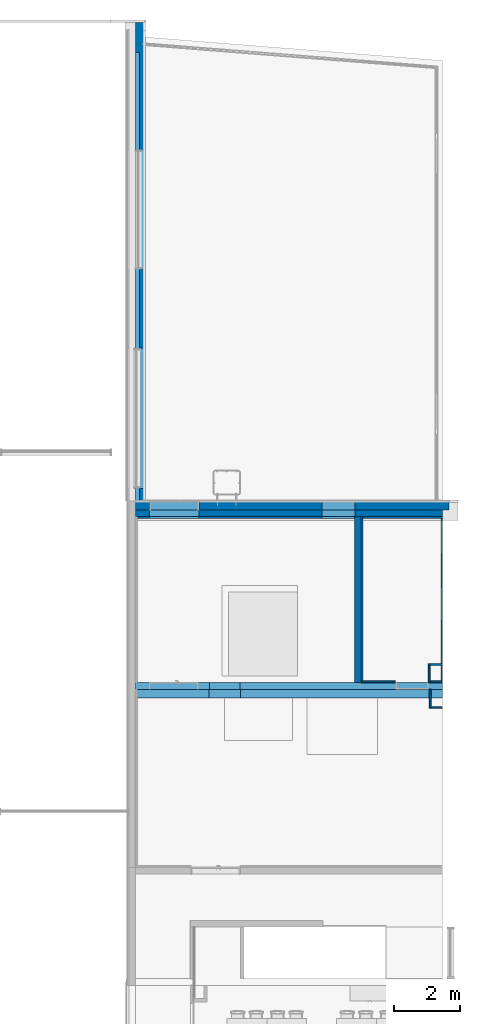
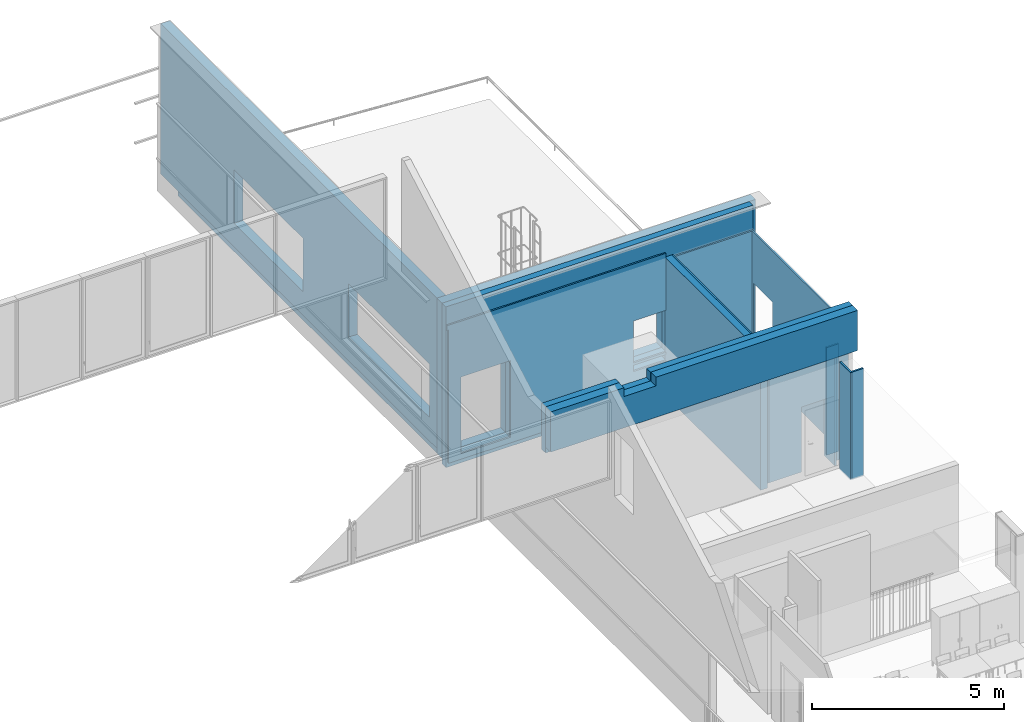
# One storey, part 28 of 44: 16 walls, 25 openings.
"""IFC2X3 building model written with IfcOpenShell, lengths in centimetres."""

from ifc_helpers import new_model, entity, si_unit, converted_unit, derived_unit, direction, frame, frame_2d, origin, origin_2d_with_axis, place, context, subcontext, project, spatial, polyline, rectangle, extrude, clip, bounded_halfspace, material, layer, layer_set, layer_usage, type_object, element, save


model = new_model("IFC2X3")

# Units and contexts
model_context = context("Model", 3, precision=0.001, world=origin(), true_north=direction((6.12303176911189e-17, 1.0)))
body_context = subcontext(model_context, "Body", "Model", "MODEL_VIEW")
ifc_project = project(units=[si_unit("LENGTHUNIT", "METRE", prefix="CENTI"), si_unit("AREAUNIT", "SQUARE_METRE"), si_unit("VOLUMEUNIT", "CUBIC_METRE"), converted_unit("PLANEANGLEUNIT", "DEGREE", entity("IfcRatioMeasure", 0.0174532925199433), si_unit("PLANEANGLEUNIT", "RADIAN"), dimensions=[0, 0, 0, 0, 0, 0, 0]), si_unit("MASSUNIT", "GRAM", prefix="KILO"), si_unit("TIMEUNIT", "SECOND"), si_unit("FREQUENCYUNIT", "HERTZ"), si_unit("THERMODYNAMICTEMPERATUREUNIT", "DEGREE_CELSIUS"), derived_unit("THERMALTRANSMITTANCEUNIT", [(si_unit("MASSUNIT", "GRAM", prefix="KILO"), 1), (si_unit("THERMODYNAMICTEMPERATUREUNIT", "KELVIN"), -1), (si_unit("TIMEUNIT", "SECOND"), -3)]), derived_unit("VOLUMETRICFLOWRATEUNIT", [(si_unit("LENGTHUNIT", "METRE"), 3), (si_unit("TIMEUNIT", "SECOND"), -1)]), si_unit("ELECTRICCURRENTUNIT", "AMPERE"), si_unit("ELECTRICVOLTAGEUNIT", "VOLT"), si_unit("POWERUNIT", "WATT"), si_unit("FORCEUNIT", "NEWTON", prefix="KILO"), si_unit("ILLUMINANCEUNIT", "LUX"), si_unit("LUMINOUSFLUXUNIT", "LUMEN"), si_unit("LUMINOUSINTENSITYUNIT", "CANDELA"), derived_unit("USERDEFINED", [(si_unit("MASSUNIT", "GRAM", prefix="KILO"), -1), (si_unit("LENGTHUNIT", "METRE"), -2), (si_unit("TIMEUNIT", "SECOND"), 3), (si_unit("LUMINOUSFLUXUNIT", "LUMEN"), 1)]), derived_unit("LINEARVELOCITYUNIT", [(si_unit("LENGTHUNIT", "METRE"), 1), (si_unit("TIMEUNIT", "SECOND"), -1)]), si_unit("PRESSUREUNIT", "PASCAL"), derived_unit("USERDEFINED", [(si_unit("LENGTHUNIT", "METRE"), -2), (si_unit("MASSUNIT", "GRAM", prefix="KILO"), 1), (si_unit("TIMEUNIT", "SECOND"), -2)])], contexts=[model_context])

# Site, building, storey
site_placement = place(None, frame((8.62739174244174, -249.285249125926, 0.0)))
site = spatial("IfcSite", under=ifc_project, at=site_placement, Name="Default", CompositionType="ELEMENT")
building_placement = place(site_placement, origin())
building = spatial("IfcBuilding", under=site, at=building_placement, CompositionType="ELEMENT")
storey_placement = place(building_placement, frame((0.0, 0.0, 343.0)))
storey = spatial("IfcBuildingStorey", under=building, at=storey_placement, Name="R+1", CompositionType="ELEMENT", Elevation=343.0)

# Walls
ifc_material_1 = material(Name="Plâtre")
ifc_layer_1 = layer(ifc_material_1, 5.0)
ifc_layer_set_1 = layer_set([ifc_layer_1], Name="Mur de base:PLA 5")
ifc_layer_usage_1 = layer_usage(ifc_layer_set_1, "AXIS2", "POSITIVE", -2.5)
wall_type_1 = type_object("IfcWallType", Name="Mur de base:PLA 5", PredefinedType="STANDARD", material=ifc_layer_set_1)
wall_1_placement = place(storey_placement, frame((3978.90482781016, 5649.4802081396, 0.0), z_axis=(0.0, 0.0, 1.0), x_axis=(-1.0, 0.0, 0.0)))
element("IfcWallStandardCase", 1, at=wall_1_placement, inside=storey, type_object=wall_type_1, material=ifc_layer_usage_1, Name="Mur de base:PLA 5", ObjectType="Mur de base:PLA 5", context=body_context, shape_type="SweptSolid", body=[
    extrude(rectangle(XDim=37.0000000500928, YDim=5.0000000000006, at=frame_2d((18.5000000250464, 1.01030295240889e-13), x_axis=(-1.0, 0.0))), origin(), (0.0, 0.0, 1.0), 343.000000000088),
])
ifc_layer_usage_2 = layer_usage(ifc_layer_set_1, "AXIS2", "POSITIVE", -2.5)
wall_2_placement = place(storey_placement, frame((3939.40482776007, 5651.9802081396, 0.0), z_axis=(0.0, 0.0, 1.0), x_axis=(0.0, -1.0, 0.0)))
element("IfcWallStandardCase", 2, at=wall_2_placement, inside=storey, type_object=wall_type_1, material=ifc_layer_usage_2, Name="Mur de base:PLA 5", ObjectType="Mur de base:PLA 5", context=body_context, shape_type="SweptSolid", body=[
    extrude(rectangle(XDim=56.9999999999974, YDim=5.0000000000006, at=frame_2d((28.4999999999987, 1.55875312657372e-13), x_axis=(-1.0, 0.0))), origin(), (0.0, 0.0, 1.0), 343.000000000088),
])
ifc_layer_usage_3 = layer_usage(ifc_layer_set_1, "AXIS2", "NEGATIVE", 2.5)
wall_3_placement = place(storey_placement, frame((3942.40482781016, 5574.9802081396, 0.0), z_axis=(0.0, 0.0, 1.0), x_axis=(0.0, -1.0, 0.0)))
element("IfcWallStandardCase", 3, at=wall_3_placement, inside=storey, type_object=wall_type_1, material=ifc_layer_usage_3, Name="Mur de base:PLA 5", ObjectType="Mur de base:PLA 5", context=body_context, shape_type="SweptSolid", body=[
    extrude(rectangle(XDim=57.0, YDim=5.0000000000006, at=frame_2d((28.5, 0.0), x_axis=(-1.0, 0.0))), origin(), (0.0, 0.0, 1.0), 343.000000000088),
])
ifc_layer_usage_4 = layer_usage(ifc_layer_set_1, "AXIS2", "NEGATIVE", 2.5)
wall_4_placement = place(storey_placement, frame((3944.90482781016, 5520.4802081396, 0.0)))
element("IfcWallStandardCase", 4, at=wall_4_placement, inside=storey, type_object=wall_type_1, material=ifc_layer_usage_4, Name="Mur de base:PLA 5", ObjectType="Mur de base:PLA 5", context=body_context, shape_type="SweptSolid", body=[
    extrude(rectangle(XDim=33.9999999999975, YDim=5.0000000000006, at=frame_2d((16.9999999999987, 0.0), x_axis=(-1.0, 0.0))), origin(), (0.0, 0.0, 1.0), 343.000000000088),
])

# Wall, openings
ifc_material_2 = material(Name="Béton, coulé sur place, gris")
ifc_layer_2 = layer(ifc_material_2, 20.0)
ifc_layer_set_2 = layer_set([ifc_layer_2], Name="Mur de base:BET 21")
ifc_layer_usage_5 = layer_usage(ifc_layer_set_2, "AXIS2", "POSITIVE", -10.0)
wall_type_2 = type_object("IfcWallType", Name="Mur de base:BET 21", PredefinedType="NOTDEFINED")
wall_5_placement = place(storey_placement, frame((3978.90482781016, 6104.9802081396, 0.0), z_axis=(0.0, 0.0, 1.0), x_axis=(-1.0, 0.0, 0.0)))
wall_5 = element("IfcWallStandardCase", 5, at=wall_5_placement, inside=storey, type_object=wall_type_2, material=ifc_layer_usage_5, Name="Mur de base:BET 21", ObjectType="Mur de base:BET 21", context=body_context, shape_type="SweptSolid", body=[
    extrude(rectangle(XDim=925.000000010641, YDim=20.0000000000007, at=frame_2d((462.500000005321, 0.0), x_axis=(-1.0, 0.0))), origin(), (0.0, 0.0, 1.0), 512.0),
])
opening_1_placement = place(wall_5_placement, origin())
element("IfcOpeningElement", 6, at=opening_1_placement, cuts=wall_5, Name="Mur de base:BET 21", ObjectType="Opening", context=body_context, shape_type="SweptSolid", body=[
    extrude(rectangle(XDim=127.20110840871, YDim=99.9999999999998, at=frame_2d((5.32907051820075e-14, 0.0), x_axis=(1.0, 0.0))), frame((313.0, -142.4, 209.887670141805), z_axis=(0.0, 1.0, 0.0), x_axis=(0.0, 0.0, -1.0)), (0.0, 0.0, 1.0), 304.8),
])
opening_2_placement = place(wall_5_placement, origin())
element("IfcOpeningElement", 7, at=opening_2_placement, cuts=wall_5, Name="Mur de base:BET 21", ObjectType="Opening", context=body_context, shape_type="SweptSolid", body=[
    extrude(rectangle(XDim=133.873048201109, YDim=99.9999999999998, at=origin_2d_with_axis()), frame((313.0, -162.4, 206.551700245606), z_axis=(0.0, 1.0, 0.0), x_axis=(0.0, 0.0, -1.0)), (0.0, 0.0, 1.0), 304.8),
])
opening_3_placement = place(wall_5_placement, origin())
element("IfcOpeningElement", 8, at=opening_3_placement, cuts=wall_5, Name="Mur de base:BET 21", ObjectType="Opening", context=body_context, shape_type="SweptSolid", body=[
    extrude(rectangle(XDim=244.0, YDim=148.999999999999, at=frame_2d((-2.8421709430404e-14, -2.20268248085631e-13), x_axis=(1.0, 0.0))), frame((808.0, -189.400000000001, 155.0), z_axis=(0.0, 1.0, 0.0), x_axis=(0.0, 0.0, 1.0)), (0.0, 0.0, 1.0), 304.8),
])
opening_4_placement = place(wall_5_placement, origin())
element("IfcOpeningElement", 9, at=opening_4_placement, cuts=wall_5, Name="Mur de base:BET 21", ObjectType="Opening", context=body_context, shape_type="SweptSolid", body=[
    extrude(rectangle(XDim=20.0000000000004, YDim=99.9999999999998, at=frame_2d((-2.66453525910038e-14, 0.0), x_axis=(1.0, 0.0))), frame((313.0, -162.4, 122.505216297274), z_axis=(0.0, 1.0, 0.0), x_axis=(0.0, 0.0, -1.0)), (0.0, 0.0, 1.0), 304.8),
])

# Wall, opening
ifc_layer_3 = layer(ifc_material_2, 20.0)
ifc_layer_set_3 = layer_set([ifc_layer_3], Name="Mur de base:BET 20")
ifc_layer_usage_6 = layer_usage(ifc_layer_set_3, "AXIS2", "NEGATIVE", 10.0)
wall_type_3 = type_object("IfcWallType", Name="Mur de base:BET 20", PredefinedType="STANDARD", material=ifc_layer_set_3)
wall_6_placement = place(storey_placement, frame((3978.90482781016, 5584.9802081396, 362.0), z_axis=(0.0, 0.0, 1.0), x_axis=(-1.0, 0.0, 0.0)))
wall_6 = element("IfcWallStandardCase", 10, at=wall_6_placement, inside=storey, type_object=wall_type_3, material=ifc_layer_usage_6, Name="Mur de base:BET 20", ObjectType="Mur de base:BET 20", context=body_context, shape_type="SweptSolid", body=[
    extrude(rectangle(XDim=925.000000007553, YDim=20.0000000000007, at=frame_2d((462.500000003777, 0.0), x_axis=(-1.0, 0.0))), origin(), (0.0, 0.0, 1.0), 146.990000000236),
])
opening_5_placement = place(wall_6_placement, origin())
element("IfcOpeningElement", 11, at=opening_5_placement, cuts=wall_6, Name="Mur de base:BET 20", ObjectType="Opening", context=body_context, shape_type="SweptSolid", body=[
    extrude(rectangle(XDim=27.990000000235, YDim=93.0418469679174, at=frame_2d((-2.16715534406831e-13, -5.41788836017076e-14), x_axis=(0.0, 1.0))), frame((656.0, 10.0, 132.995000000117), z_axis=(0.0, -1.0, 0.0), x_axis=(-1.0, 0.0, 0.0)), (0.0, 0.0, 1.0), 20.0),
])

# Walls
ifc_layer_usage_7 = layer_usage(ifc_layer_set_3, "AXIS2", "NEGATIVE", 10.0)
wall_7_placement = place(storey_placement, frame((3723.90482776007, 5594.9802081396, 0.0), z_axis=(0.0, 0.0, 1.0), x_axis=(0.0, 1.0, 0.0)))
element("IfcWallStandardCase", 12, at=wall_7_placement, inside=storey, type_object=wall_type_3, material=ifc_layer_usage_7, Name="Mur de base:BET 20", ObjectType="Mur de base:BET 20", context=body_context, shape_type="SweptSolid", body=[
    extrude(rectangle(XDim=499.999999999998, YDim=19.9999999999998, at=frame_2d((249.999999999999, 0.0), x_axis=(-1.0, 0.0))), origin(), (0.0, 0.0, 1.0), 440.0),
])
ifc_material_3 = material(Name="Maçonnerie")
ifc_layer_4 = layer(ifc_material_3, 1.0)
ifc_material_4 = material(Name="Laine minérale")
ifc_layer_5 = layer(ifc_material_4, 9.0)
ifc_layer_6 = layer(ifc_material_1, 2.0)
ifc_layer_set_4 = layer_set([ifc_layer_4, ifc_layer_5, ifc_layer_6], Name="Mur de base:PLA 2 +  + ISO 9 + ETAN 1")
ifc_layer_usage_8 = layer_usage(ifc_layer_set_4, "AXIS2", "POSITIVE", -6.0)
wall_type_4 = type_object("IfcWallType", Name="Mur de base:PLA 2 +  + ISO 9 + ETAN 1", PredefinedType="STANDARD", material=ifc_layer_set_4)
wall_8_placement = place(storey_placement, frame((3059.90482782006, 7493.84231321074, 18.0), z_axis=(0.0, 0.0, 1.0), x_axis=(0.0, -1.0, 0.0)))
element("IfcWallStandardCase", 13, at=wall_8_placement, inside=storey, type_object=wall_type_4, material=ifc_layer_usage_8, Name="Mur de base:PLA 2 +  + ISO 9 + ETAN 1", ObjectType="Mur de base:PLA 2 +  + ISO 9 + ETAN 1", context=body_context, shape_type="SweptSolid", body=[
    extrude(rectangle(XDim=11.9999999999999, YDim=1351.86210507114, at=frame_2d((2.16715534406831e-13, 8.5265128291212e-13), x_axis=(1.0, 0.0))), frame((675.931052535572, 0.0, 0.0), z_axis=(0.0, 0.0, 1.0), x_axis=(0.0, 1.0, 0.0)), (0.0, 0.0, 1.0), 15.0),
])

# Wall, openings
ifc_material_5 = material(Name="Tôle/Doublage(PROJET)")
ifc_layer_7 = layer(ifc_material_5, 4.0)
ifc_layer_8 = layer(ifc_material_4, 23.0)
ifc_layer_set_5 = layer_set([ifc_layer_7, ifc_layer_8], Name="Mur de base:MET PROJET 4 + ISO 23")
ifc_layer_usage_9 = layer_usage(ifc_layer_set_5, "AXIS2", "POSITIVE", -13.5)
wall_type_5 = type_object("IfcWallType", Name="Mur de base:MET PROJET 4 + ISO 23", PredefinedType="NOTDEFINED")
wall_9_placement = place(storey_placement, frame((3998.90482781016, 6128.4802081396, 15.0881867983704), z_axis=(0.0, 0.0, 1.0), x_axis=(-1.0, 0.0, 0.0)))
wall_9 = element("IfcWallStandardCase", 14, at=wall_9_placement, inside=storey, type_object=wall_type_5, material=ifc_layer_usage_9, Name="Mur de base:MET PROJET 4 + ISO 23", ObjectType="Mur de base:MET PROJET 4 + ISO 23", context=body_context, shape_type="Clipping", body=[
    clip(clip(extrude(rectangle(XDim=945.0000000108, YDim=27.0000000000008, at=frame_2d((472.5000000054, 0.0), x_axis=(-1.0, 0.0))), origin(), (0.0, 0.0, 1.0), 496.81181320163), bounded_halfspace(frame((20.0, -13.4999999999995, 2.91181320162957), z_axis=(0.0, 0.0, 1.0), x_axis=(-1.0, 0.0, 0.0)), True, frame((20.0, -13.4999999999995, 2.91181320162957), z_axis=(0.0, 0.0, 1.0), x_axis=(-1.0, 0.0, 0.0)), polyline([(0.0, 0.0), (-925.0, 0.0), (-925.0, -27.0), (0.0, -27.0), (0.0, 0.0)]))), bounded_halfspace(frame((20.0, 13.5000000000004, 2.91181320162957), z_axis=(-1.0, 0.0, 0.0), x_axis=(0.0, -1.0, 0.0)), True, frame((20.0, 13.5000000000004, 2.91181320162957), z_axis=(-1.0, 0.0, 0.0), x_axis=(0.0, -1.0, 0.0)), polyline([(0.0, 0.0), (0.0, -2.91181320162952), (27.0, -2.91181320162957), (27.0, 0.0), (0.0, 0.0)]))),
])
opening_6_placement = place(wall_9_placement, origin())
element("IfcOpeningElement", 15, at=opening_6_placement, cuts=wall_9, Name="Mur de base:MET PROJET 4 + ISO 23", ObjectType="Opening", context=body_context, shape_type="SweptSolid", body=[
    extrude(rectangle(XDim=133.873048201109, YDim=99.9999999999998, at=origin_2d_with_axis()), frame((333.0, -138.9, 191.463513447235), z_axis=(0.0, 1.0, 0.0), x_axis=(0.0, 0.0, -1.0)), (0.0, 0.0, 1.0), 304.8),
])
opening_7_placement = place(wall_9_placement, origin())
element("IfcOpeningElement", 16, at=opening_7_placement, cuts=wall_9, Name="Mur de base:MET PROJET 4 + ISO 23", ObjectType="Opening", context=body_context, shape_type="SweptSolid", body=[
    extrude(rectangle(XDim=127.20110840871, YDim=99.9999999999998, at=frame_2d((5.32907051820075e-14, 0.0), x_axis=(1.0, 0.0))), frame((333.0, -118.899999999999, 194.799483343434), z_axis=(0.0, 1.0, 0.0), x_axis=(0.0, 0.0, -1.0)), (0.0, 0.0, 1.0), 304.8),
])
opening_8_placement = place(wall_9_placement, origin())
element("IfcOpeningElement", 17, at=opening_8_placement, cuts=wall_9, Name="Mur de base:MET PROJET 4 + ISO 23", ObjectType="Opening", context=body_context, shape_type="SweptSolid", body=[
    extrude(rectangle(XDim=20.0000000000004, YDim=99.9999999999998, at=frame_2d((-2.66453525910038e-14, 0.0), x_axis=(1.0, 0.0))), frame((333.0, -138.9, 107.417029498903), z_axis=(0.0, 1.0, 0.0), x_axis=(0.0, 0.0, -1.0)), (0.0, 0.0, 1.0), 304.8),
])
opening_9_placement = place(wall_9_placement, frame((902.499999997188, 13.5, 17.9118132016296)))
element("IfcOpeningElement", 18, at=opening_9_placement, cuts=wall_9, Name="Tierce(R)_bois_mu:143 x 241 cm:1", ObjectType="Opening", context=body_context, shape_type="SweptSolid", body=[
    extrude(rectangle(XDim=244.0, YDim=149.0, at=frame_2d((122.0, 74.4999999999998), x_axis=(1.0, 0.0))), frame((0.0, 0.0, 0.0), z_axis=(0.0, -1.0, 0.0), x_axis=(0.0, 0.0, 1.0)), (0.0, 0.0, 1.0), 27.0),
])

# Wall, opening
ifc_layer_usage_10 = layer_usage(ifc_layer_set_5, "AXIS2", "NEGATIVE", 13.5)
wall_10_placement = place(storey_placement, frame((3978.90482781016, 5561.4802081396, 381.0), z_axis=(0.0, 0.0, 1.0), x_axis=(-1.0, 0.0, 0.0)))
wall_10 = element("IfcWallStandardCase", 19, at=wall_10_placement, inside=storey, type_object=wall_type_5, material=ifc_layer_usage_10, Name="Mur de base:MET PROJET 4 + ISO 23", ObjectType="Mur de base:MET PROJET 4 + ISO 23", context=body_context, shape_type="SweptSolid", body=[
    extrude(rectangle(XDim=925.000000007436, YDim=27.0000000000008, at=frame_2d((462.500000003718, 0.0), x_axis=(-1.0, 0.0))), origin(), (0.0, 0.0, 1.0), 127.990000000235),
])
opening_10_placement = place(wall_10_placement, origin())
element("IfcOpeningElement", 20, at=opening_10_placement, cuts=wall_10, Name="Mur de base:MET PROJET 4 + ISO 23", ObjectType="Opening", context=body_context, shape_type="SweptSolid", body=[
    extrude(rectangle(XDim=28.0, YDim=95.9999999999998, at=frame_2d((-4.33431068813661e-13, 1.08357767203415e-13), x_axis=(0.0, 1.0))), frame((656.0, 13.5000000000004, 113.990000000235), z_axis=(0.0, -1.0, 0.0), x_axis=(-1.0, 0.0, 0.0)), (0.0, 0.0, 1.0), 27.0),
])

# Wall, openings
ifc_layer_usage_11 = layer_usage(ifc_layer_set_5, "AXIS2", "POSITIVE", -13.5)
wall_11_placement = place(storey_placement, frame((3067.40482779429, 6141.9802081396, 33.0), z_axis=(0.0, 0.0, 1.0), x_axis=(0.0, 1.0, 0.0)))
wall_11 = element("IfcWallStandardCase", 21, at=wall_11_placement, inside=storey, type_object=wall_type_5, material=ifc_layer_usage_11, Name="Mur de base:MET PROJET 4 + ISO 23", ObjectType="Mur de base:MET PROJET 4 + ISO 23", context=body_context, shape_type="SweptSolid", body=[
    extrude(rectangle(XDim=1442.5, YDim=26.9999999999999, at=frame_2d((721.250000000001, 1.77635683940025e-14), x_axis=(-1.0, 0.0))), origin(), (0.0, 0.0, 1.0), 478.999999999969),
])
opening_11_placement = place(wall_11_placement, origin())
element("IfcOpeningElement", 22, at=opening_11_placement, cuts=wall_11, Name="Mur de base:MET PROJET 4 + ISO 23", ObjectType="Opening", context=body_context, shape_type="SweptSolid", body=[
    extrude(rectangle(XDim=169.999999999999, YDim=422.20000970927, at=frame_2d((0.0, 0.0), x_axis=(0.0, 1.0))), frame((249.899995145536, -28.7400000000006, 160.0), z_axis=(0.0, 1.0, 0.0), x_axis=(-1.0, 0.0, 0.0)), (0.0, 0.0, 1.0), 57.4799999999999),
])
opening_12_placement = place(wall_11_placement, origin())
element("IfcOpeningElement", 23, at=opening_12_placement, cuts=wall_11, Name="Mur de base:MET PROJET 4 + ISO 23", ObjectType="Opening", context=body_context, shape_type="SweptSolid", body=[
    extrude(rectangle(XDim=169.999999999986, YDim=359.999999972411, at=frame_2d((4.40536496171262e-13, 0.0), x_axis=(0.0, 1.0))), frame((878.79999031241, -28.7400000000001, 160.0), z_axis=(0.0, 1.0, 0.0), x_axis=(-1.0, 0.0, 0.0)), (0.0, 0.0, 1.0), 57.4799999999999),
])
opening_13_placement = place(wall_11_placement, origin())
element("IfcOpeningElement", 24, at=opening_13_placement, cuts=wall_11, Name="Mur de base:MET PROJET 4 + ISO 23", ObjectType="Opening", context=body_context, shape_type="SweptSolid", body=[
    extrude(rectangle(XDim=207.499999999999, YDim=99.9999999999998, at=frame_2d((0.0, 5.6843418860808e-14), x_axis=(0.0, 1.0))), frame((-1011.50129876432, -165.900000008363, 541.749999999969), z_axis=(0.0, 1.0, 0.0), x_axis=(-1.0, 0.0, 0.0)), (0.0, 0.0, 1.0), 304.8),
])
opening_14_placement = place(wall_11_placement, origin())
element("IfcOpeningElement", 25, at=opening_14_placement, cuts=wall_11, Name="Mur de base:MET PROJET 4 + ISO 23", ObjectType="Opening", context=body_context, shape_type="SweptSolid", body=[
    extrude(rectangle(XDim=168.5, YDim=99.9999999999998, at=frame_2d((0.0, -5.6843418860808e-14), x_axis=(0.0, 1.0))), frame((-2091.79948039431, -165.900000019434, 522.249999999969), z_axis=(0.0, 1.0, 0.0), x_axis=(-1.0, 0.0, 0.0)), (0.0, 0.0, 1.0), 304.8),
])

ifc_layer_9 = layer(ifc_material_4, 3.0)
ifc_material_6 = material(Name="Panneau de grandes particules orientées")
ifc_layer_10 = layer(ifc_material_6, 2.0)
ifc_layer_set_6 = layer_set([ifc_layer_9, ifc_layer_10], Name="Mur de base:ACOUST 5")
ifc_layer_usage_12 = layer_usage(ifc_layer_set_6, "AXIS2", "NEGATIVE", 2.5)
wall_type_6 = type_object("IfcWallType", Name="Mur de base:ACOUST 5", PredefinedType="STANDARD", material=ifc_layer_set_6)
wall_12_placement = place(storey_placement, frame((3053.90482779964, 6092.4802081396, 15.0)))
wall_12 = element("IfcWallStandardCase", 26, at=wall_12_placement, inside=storey, type_object=wall_type_6, material=ifc_layer_usage_12, Name="Mur de base:ACOUST 5", ObjectType="Mur de base:ACOUST 5", context=body_context, shape_type="Clipping", body=[
    clip(clip(extrude(rectangle(XDim=659.999999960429, YDim=5.0000000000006, at=frame_2d((329.999999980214, 0.0), x_axis=(-1.0, 0.0))), origin(), (0.0, 0.0, 1.0), 440.0), bounded_halfspace(frame((5.0, -2.49999999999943, 425.0), z_axis=(1.0, 0.0, 0.0), x_axis=(0.0, 1.0, 0.0)), True, frame((5.0, -2.49999999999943, 425.0), z_axis=(1.0, 0.0, 0.0), x_axis=(0.0, 1.0, 0.0)), polyline([(0.0, 0.0), (0.0, -425.0), (5.0, -425.0), (5.0, -5.0), (5.0, 0.0), (0.0, 0.0)]))), bounded_halfspace(frame((5.0, 2.5000000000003, 425.0), z_axis=(0.0, 0.0, 1.0), x_axis=(-1.0, 0.0, 0.0)), True, frame((5.0, 2.5000000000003, 425.0), z_axis=(0.0, 0.0, 1.0), x_axis=(-1.0, 0.0, 0.0)), polyline([(0.0, 0.0), (5.0, 0.0), (5.0, 5.0), (0.0, 5.0), (0.0, 0.0)]))),
])
opening_15_placement = place(wall_12_placement, origin())
element("IfcOpeningElement", 27, at=opening_15_placement, cuts=wall_12, Name="Mur de base:ACOUST 5", ObjectType="Opening", context=body_context, shape_type="SweptSolid", body=[
    extrude(rectangle(XDim=127.20110840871, YDim=99.9999999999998, at=frame_2d((0.0, 5.32907051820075e-14), x_axis=(0.0, 1.0))), frame((612.0, -149.9, 194.887670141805), z_axis=(0.0, 1.0, 0.0), x_axis=(1.0, 0.0, 0.0)), (0.0, 0.0, 1.0), 304.8),
])
opening_16_placement = place(wall_12_placement, origin())
element("IfcOpeningElement", 28, at=opening_16_placement, cuts=wall_12, Name="Mur de base:ACOUST 5", ObjectType="Opening", context=body_context, shape_type="SweptSolid", body=[
    extrude(rectangle(XDim=133.873048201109, YDim=99.9999999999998, at=frame_2d((0.0, 0.0), x_axis=(0.0, 1.0))), frame((612.0, -129.899999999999, 191.551700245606), z_axis=(0.0, 1.0, 0.0), x_axis=(1.0, 0.0, 0.0)), (0.0, 0.0, 1.0), 304.8),
])
opening_17_placement = place(wall_12_placement, origin())
element("IfcOpeningElement", 29, at=opening_17_placement, cuts=wall_12, Name="Mur de base:ACOUST 5", ObjectType="Opening", context=body_context, shape_type="SweptSolid", body=[
    extrude(rectangle(XDim=20.0000000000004, YDim=99.9999999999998, at=frame_2d((0.0, 2.66453525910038e-14), x_axis=(0.0, 1.0))), frame((612.0, -129.899999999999, 107.505216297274), z_axis=(0.0, 1.0, 0.0), x_axis=(1.0, 0.0, 0.0)), (0.0, 0.0, 1.0), 304.8),
])
opening_18_placement = place(wall_12_placement, origin())
element("IfcOpeningElement", 30, at=opening_18_placement, cuts=wall_12, Name="Mur de base:ACOUST 5", ObjectType="Opening", context=body_context, shape_type="SweptSolid", body=[
    extrude(rectangle(XDim=244.0, YDim=149.0, at=frame_2d((0.0, -2.8421709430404e-14), x_axis=(0.0, 1.0))), frame((117.0, -102.899999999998, 140.0), z_axis=(0.0, 1.0, 0.0), x_axis=(-1.0, 0.0, 0.0)), (0.0, 0.0, 1.0), 304.8),
])

# Wall
ifc_layer_usage_13 = layer_usage(ifc_layer_set_6, "AXIS2", "NEGATIVE", 2.5)
wall_13_placement = place(storey_placement, frame((3733.90482776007, 6092.4802081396, 15.0)))
element("IfcWallStandardCase", 31, at=wall_13_placement, inside=storey, type_object=wall_type_6, material=ifc_layer_usage_13, Name="Mur de base:ACOUST 5", ObjectType="Mur de base:ACOUST 5", context=body_context, shape_type="Clipping", body=[
    clip(clip(extrude(rectangle(XDim=245.000000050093, YDim=5.0000000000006, at=frame_2d((122.500000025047, 0.0), x_axis=(-1.0, 0.0))), origin(), (0.0, 0.0, 1.0), 420.0), bounded_halfspace(frame((5.0, 2.50000000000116, 0.390709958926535), z_axis=(1.0, 0.0, 0.0), x_axis=(0.0, 1.0, 0.0)), True, frame((5.0, 2.50000000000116, 0.390709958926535), z_axis=(1.0, 0.0, 0.0), x_axis=(0.0, 1.0, 0.0)), polyline([(0.0, 0.0), (0.0, 419.609290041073), (-5.0, 419.609290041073), (-5.0, 0.0), (0.0, 0.0)]))), bounded_halfspace(frame((5.0, -2.49999999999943, 0.390709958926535), z_axis=(0.0, 0.0, -1.0), x_axis=(-1.0, 0.0, 0.0)), True, frame((5.0, -2.49999999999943, 0.390709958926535), z_axis=(0.0, 0.0, -1.0), x_axis=(-1.0, 0.0, 0.0)), polyline([(0.0, 0.0), (5.0, 0.0), (5.0, 5.0), (0.0, 5.0), (0.0, 0.0)]))),
])

# Wall, openings
ifc_layer_usage_14 = layer_usage(ifc_layer_set_6, "AXIS2", "NEGATIVE", 2.5)
wall_14_placement = place(storey_placement, frame((3976.40482781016, 6089.9802081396, 15.0), z_axis=(0.0, 0.0, 1.0), x_axis=(0.0, -1.0, 0.0)))
wall_14 = element("IfcWallStandardCase", 32, at=wall_14_placement, inside=storey, type_object=wall_type_6, material=ifc_layer_usage_14, Name="Mur de base:ACOUST 5", ObjectType="Mur de base:ACOUST 5", context=body_context, shape_type="Clipping", body=[
    clip(extrude(rectangle(XDim=489.999999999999, YDim=5.0000000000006, at=frame_2d((244.999999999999, -4.44089209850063e-15), x_axis=(-1.0, 0.0))), origin(), (0.0, 0.0, 1.0), 420.0), bounded_halfspace(frame((0.0, -2.49999999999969, 0.0), z_axis=(1.0, 0.0, 0.0), x_axis=(0.0, 1.0, 0.0)), True, frame((0.0, -2.49999999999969, 0.0), z_axis=(1.0, 0.0, 0.0), x_axis=(0.0, 1.0, 0.0)), polyline([(0.0, 0.0), (5.0, 0.0), (5.0, 420.0), (0.0, 420.0), (0.0, 0.0)]))),
])
opening_19_placement = place(wall_14_placement, origin())
element("IfcOpeningElement", 33, at=opening_19_placement, cuts=wall_14, Name="Mur de base:ACOUST 5", ObjectType="Opening", context=body_context, shape_type="SweptSolid", body=[
    extrude(rectangle(XDim=169.99999999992, YDim=155.0, at=frame_2d((0.0, -4.33431068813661e-13), x_axis=(1.0, 0.0))), frame((1309.50000000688, -17.74, 178.0), z_axis=(0.0, 1.0, 0.0), x_axis=(0.0, 0.0, 1.0)), (0.0, 0.0, 1.0), 35.4799999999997),
])
opening_20_placement = place(wall_14_placement, origin())
element("IfcOpeningElement", 34, at=opening_20_placement, cuts=wall_14, Name="Mur de base:ACOUST 5", ObjectType="Opening", context=body_context, shape_type="SweptSolid", body=[
    extrude(rectangle(XDim=170.0, YDim=500.0, at=frame_2d((0.0, 4.40536496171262e-13), x_axis=(1.0, 0.0))), frame((1743.39750739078, -17.7399999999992, 178.0), z_axis=(0.0, 1.0, 0.0), x_axis=(0.0, 0.0, 1.0)), (0.0, 0.0, 1.0), 35.4799999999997),
])
opening_21_placement = place(wall_14_placement, origin())
element("IfcOpeningElement", 35, at=opening_21_placement, cuts=wall_14, Name="Mur de base:ACOUST 5", ObjectType="Opening", context=body_context, shape_type="SweptSolid", body=[
    extrude(rectangle(XDim=170.0, YDim=500.0, at=frame_2d((0.0, -4.40536496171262e-13), x_axis=(1.0, 0.0))), frame((2398.29501477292, -17.7399999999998, 178.0), z_axis=(0.0, 1.0, 0.0), x_axis=(0.0, 0.0, 1.0)), (0.0, 0.0, 1.0), 35.4799999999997),
])
opening_22_placement = place(wall_14_placement, origin())
element("IfcOpeningElement", 36, at=opening_22_placement, cuts=wall_14, Name="Mur de base:ACOUST 5", ObjectType="Opening", context=body_context, shape_type="SweptSolid", body=[
    extrude(rectangle(XDim=170.0, YDim=500.0, at=frame_2d((0.0, -4.40536496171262e-13), x_axis=(1.0, 0.0))), frame((3098.29501477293, -17.7400000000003, 178.0), z_axis=(0.0, 1.0, 0.0), x_axis=(0.0, 0.0, 1.0)), (0.0, 0.0, 1.0), 35.4799999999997),
])
opening_23_placement = place(wall_14_placement, origin())
element("IfcOpeningElement", 37, at=opening_23_placement, cuts=wall_14, Name="Mur de base:ACOUST 5", ObjectType="Opening", context=body_context, shape_type="SweptSolid", body=[
    extrude(rectangle(XDim=161.0, YDim=99.9999999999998, at=frame_2d((8.66862137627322e-13, -5.6843418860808e-14), x_axis=(0.0, 1.0))), frame((56.9882243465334, -129.900000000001, 177.511775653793), z_axis=(0.0, 1.0, 0.0), x_axis=(1.0, 0.0, 0.0)), (0.0, 0.0, 1.0), 304.8),
])
opening_24_placement = place(wall_14_placement, origin())
element("IfcOpeningElement", 38, at=opening_24_placement, cuts=wall_14, Name="Mur de base:ACOUST 5", ObjectType="Opening", context=body_context, shape_type="SweptSolid", body=[
    extrude(rectangle(XDim=161.0, YDim=99.9999999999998, at=frame_2d((0.0, 5.6843418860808e-14), x_axis=(0.0, 1.0))), frame((256.988224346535, -129.900000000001, 177.511775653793), z_axis=(0.0, 1.0, 0.0), x_axis=(1.0, 0.0, 0.0)), (0.0, 0.0, 1.0), 304.8),
])

# Wall, opening
ifc_layer_11 = layer(ifc_material_4, 3.0)
ifc_material_7 = material(Name="Panneau de grandes particules orientées(1)")
ifc_layer_12 = layer(ifc_material_7, 2.0)
ifc_layer_set_7 = layer_set([ifc_layer_11, ifc_layer_12], Name="Mur de base:ACOUST panneaux fibres")
ifc_layer_usage_15 = layer_usage(ifc_layer_set_7, "AXIS2", "NEGATIVE", 2.5)
wall_type_7 = type_object("IfcWallType", Name="Mur de base:ACOUST panneaux fibres", PredefinedType="STANDARD", material=ifc_layer_set_7)
wall_15_placement = place(storey_placement, frame((3978.90482781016, 5597.4802081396, 15.0), z_axis=(0.0, 0.0, 1.0), x_axis=(-1.0, 0.0, 0.0)))
wall_15 = element("IfcWallStandardCase", 39, at=wall_15_placement, inside=storey, type_object=wall_type_7, material=ifc_layer_usage_15, Name="Mur de base:ACOUST panneaux fibres", ObjectType="Mur de base:ACOUST panneaux fibres", context=body_context, shape_type="Clipping", body=[
    clip(clip(extrude(rectangle(XDim=245.000000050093, YDim=5.0000000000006, at=frame_2d((122.500000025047, 0.0), x_axis=(-1.0, 0.0))), origin(), (0.0, 0.0, 1.0), 420.0), bounded_halfspace(frame((240.0, -2.49999999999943, 0.390709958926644), z_axis=(-1.0, 0.0, 0.0), x_axis=(0.0, -1.0, 0.0)), True, frame((240.0, -2.49999999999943, 0.390709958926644), z_axis=(-1.0, 0.0, 0.0), x_axis=(0.0, -1.0, 0.0)), polyline([(0.0, 0.0), (0.0, 419.609290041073), (-5.0, 419.609290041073), (-5.0, 0.0), (0.0, 0.0)]))), bounded_halfspace(frame((240.0, 2.49999999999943, 0.390709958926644), z_axis=(0.0, 0.0, -1.0), x_axis=(1.0, 0.0, 0.0)), True, frame((240.0, 2.49999999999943, 0.390709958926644), z_axis=(0.0, 0.0, -1.0), x_axis=(1.0, 0.0, 0.0)), polyline([(0.0, 0.0), (5.0, 0.0), (5.0, 5.0), (0.0, 5.0), (0.0, 0.0)]))),
])
opening_25_placement = place(wall_15_placement, origin())
element("IfcOpeningElement", 40, at=opening_25_placement, cuts=wall_15, Name="Mur de base:ACOUST panneaux fibres", ObjectType="Opening", context=body_context, shape_type="SweptSolid", body=[
    extrude(rectangle(XDim=207.499999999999, YDim=100.0, at=frame_2d((-2.8421709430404e-14, 2.16715534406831e-13), x_axis=(1.0, 0.0))), frame((92.0, -129.899999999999, 103.75), z_axis=(0.0, 1.0, 0.0), x_axis=(0.0, 0.0, 1.0)), (0.0, 0.0, 1.0), 304.8),
])

# Wall
ifc_layer_usage_16 = layer_usage(ifc_layer_set_7, "AXIS2", "NEGATIVE", 2.5)
wall_16_placement = place(storey_placement, frame((3736.40482776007, 5594.9802081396, 15.3907099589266), z_axis=(0.0, 0.0, 1.0), x_axis=(0.0, 1.0, 0.0)))
element("IfcWallStandardCase", 41, at=wall_16_placement, inside=storey, type_object=wall_type_7, material=ifc_layer_usage_16, Name="Mur de base:ACOUST panneaux fibres", ObjectType="Mur de base:ACOUST panneaux fibres", context=body_context, shape_type="SweptSolid", body=[
    extrude(rectangle(XDim=499.999999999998, YDim=4.99999999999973, at=frame_2d((249.999999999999, 0.0), x_axis=(-1.0, 0.0))), origin(), (0.0, 0.0, 1.0), 424.609290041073),
])

save(model, "model.ifc")
